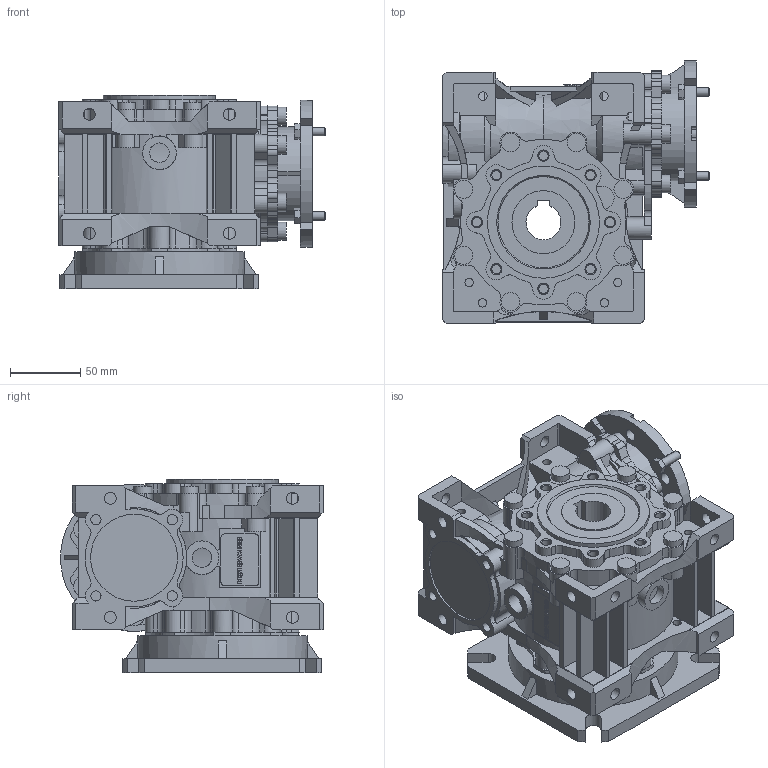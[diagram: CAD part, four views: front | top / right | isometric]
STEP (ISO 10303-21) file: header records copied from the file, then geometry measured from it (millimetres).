
FILE_DESCRIPTION(/* description */ ('STEP AP203'),/* implementation_level */ '2;1');
FILE_NAME(/* name */ 'NMRVP_063_105x14_25_NO_FA_180_S_NO_-_-_-_NO_NO_-_---_---------------',/* time_stamp */ '2025-11-21T01:32:47+01:00',/* author */ ('License CC BY-ND 4.0'),/* organization */ ('CADENAS'),/* preprocessor_version */ 'ST-DEVELOPER v20',/* originating_system */ 'PARTsolutions',/* authorisation */ ' ');
FILE_SCHEMA (('CONFIG_CONTROL_DESIGN'));
Length unit declared in the file: millimetre
Products named in the file (7): NMRVP 063 105x14 25 NO FA 180 S NO - - - NO NO - ---(---------------); W.063.01.M; 063-25 (112); W.063.14.14.M-p; 6371 B14; 63-45; FU 63FA-p
Assembly tree (6 placements, depth 2):
  NMRVP 063 105x14 25 NO FA 180 S NO - - - NO NO - ---(---------------)
    W.063.01.M
    063-25 (112)
    W.063.14.14.M-p
    6371 B14
    63-45
    FU 63FA-p
Bounding box: 190.44 x 187.33 x 138 mm (x, y, z)
Volume: 1997086 mm3; surface area: 364775.7 mm2
Topology: 6 solids, 10 shells, 1712 faces, 4653 edges, 3078 vertices
Faces by surface type: plane 955, cylinder 688, cone 67, torus 2
Full cylindrical faces by diameter (mm): 6 x16, 6.647 x16, 7.26 x12, 7.8 x1, 8.5 x20, 13 x22, 14 x3, 24 x1, 27 x1, 35 x1, 37 x1, 44 x1, 45 x3, 62 x3, 68 x2, 70 x1, 80 x3, 114 x1, 115 x1, 121 x1
Entity records: 54020 total; most frequent: CARTESIAN_POINT 10079, DIRECTION 9300, ORIENTED_EDGE 8972, EDGE_CURVE 4486, AXIS2_PLACEMENT_3D 3322, VERTEX_POINT 3048, LINE 2656, VECTOR 2656
